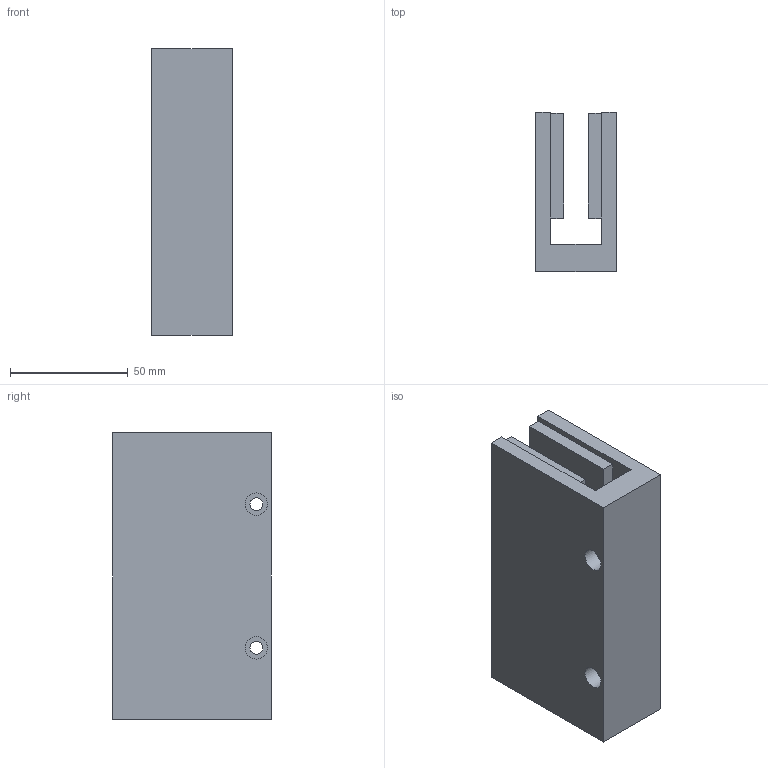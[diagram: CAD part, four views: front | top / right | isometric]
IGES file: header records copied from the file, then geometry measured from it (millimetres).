
Global section: file name: No Iges File Name specified; native system: Autodesk Inventor 2012; preprocessor: AutoDesk Inventor Iges Exporter R2012; author: je17857; date: 20120511.155618; units: inch
Bounding box: 34.29 x 67.31 x 121.67 mm (x, y, z)
Volume: 181009.9 mm3; surface area: 48085.2 mm2
Topology: 1 solids, 1 shells, 60 faces, 138 edges, 92 vertices
Faces by surface type: plane 54, revolution 6
